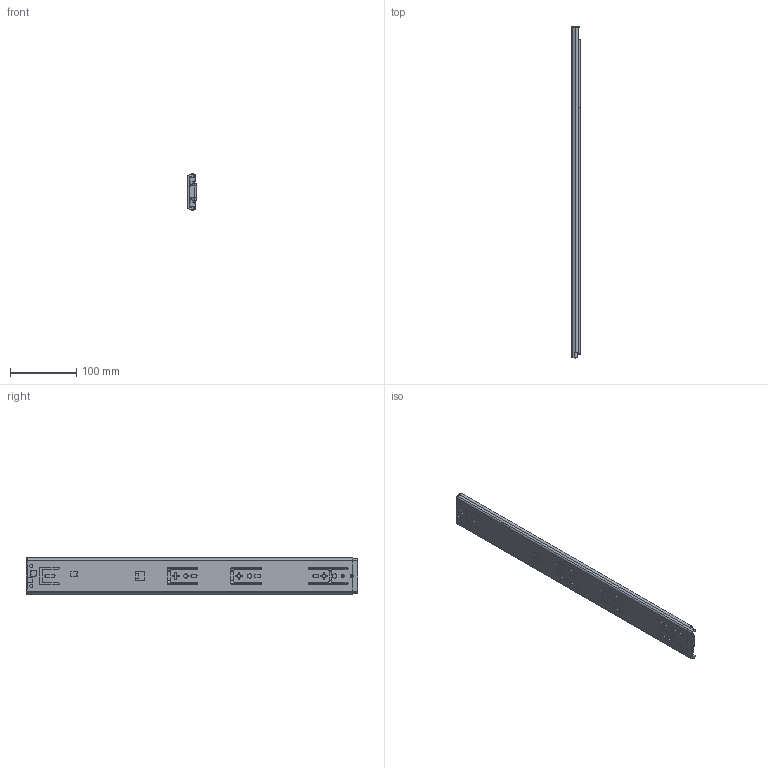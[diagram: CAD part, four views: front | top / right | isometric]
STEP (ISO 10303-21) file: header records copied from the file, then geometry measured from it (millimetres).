
FILE_DESCRIPTION( ( 'Unknown' ), '1' );
FILE_NAME( 'C:/Users/rd30/Desktop/85A01-500-Close.stp', 'Unknown', ( 'Unknown' ), ( 'Unknown' ), 'PSStep 14.0', 'Unknown', ' ' );
FILE_SCHEMA( ( 'AUTOMOTIVE_DESIGN { 1 0 10303 214 1 1 1 1 }' ) );
Length unit declared in the file: millimetre
Products named in the file (8): P10-366-3-1; P10-367-130429; 本體(卡式)20130423-\X2\4FEE6A21571\X0\; Assem1; 85A01P11-02-500; 85A01P21-03-500; 85A01P30-04-500; 85A01P30-04-B
Assembly tree (7 placements, depth 3):
  Assem1
    85A01P11-02-500
    85A01P21-03-500
    85A01P30-04-500
    85A01P30-04-B
    P10-366-3-1
      P10-367-130429
      本體(卡式)20130423-\X2\4FEE6A21571\X0\
Bounding box: 12.6 x 500 x 55.37 mm (x, y, z)
Volume: 185025.6 mm3; surface area: 159870.8 mm2
Topology: 6 solids, 6 shells, 683 faces, 1960 edges, 1287 vertices
Faces by surface type: plane 332, cylinder 291, cone 32, torus 24, bspline 2, sphere 2
Full cylindrical faces by diameter (mm): 1.4 x1, 3 x1, 3.2 x1, 4.6 x1, 5 x4, 5.1 x1, 5.5 x1, 6.25 x1, 6.4 x3
Entity records: 28414 total; most frequent: CARTESIAN_POINT 4302, DIRECTION 3876, ORIENTED_EDGE 3858, EDGE_CURVE 1929, AXIS2_PLACEMENT_3D 1341, VERTEX_POINT 1275, LINE 1194, VECTOR 1194
